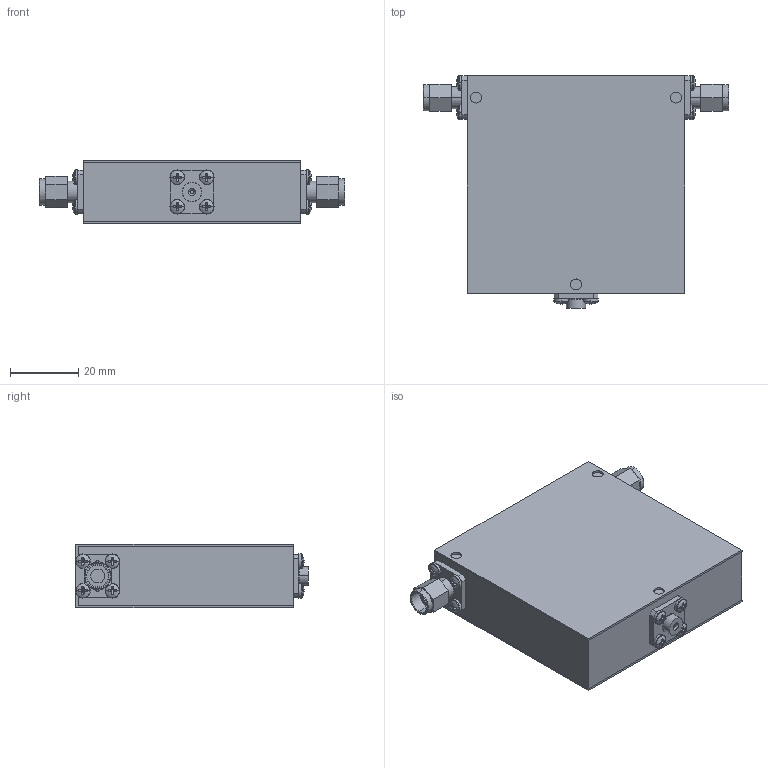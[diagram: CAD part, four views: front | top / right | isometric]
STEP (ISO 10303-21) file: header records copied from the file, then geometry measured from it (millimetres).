
FILE_DESCRIPTION (( 'STEP AP214' ), '1' );
FILE_NAME ('D3I0405-3 2.5x2.5x0.73 MM.step', '2021-12-01T20:55:41', ( '' ), ( '' ), 'SwSTEP 2.0', 'SolidWorks 2016', '' );
FILE_SCHEMA (( 'AUTOMOTIVE_DESIGN' ));
Length unit declared in the file: inch
Products named in the file (6): D3I0405 2.5x2.475x0.68; D3I0405 2.5x2.5x0.73; pan cross head_ai_CR-PHMS 0.086-56x0.125x0.125-N; D3I0405-3 2.5x2.5x0.73 MM; 030013-1A Same Base thickness as connectors; Delta SMA-Male
Assembly tree (17 placements, depth 2):
  D3I0405-3 2.5x2.5x0.73 MM
    D3I0405 2.5x2.475x0.68
    D3I0405 2.5x2.5x0.73
    030013-1A Same Base thickness as connectors
    pan cross head_ai_CR-PHMS 0.086-56x0.125x0.125-N  x12
    Delta SMA-Male  x2
Bounding box: 89.26 x 68.03 x 18.54 mm (x, y, z)
Volume: 76380.6 mm3; surface area: 33963.4 mm2
Topology: 17 solids, 17 shells, 430 faces, 980 edges, 604 vertices
Faces by surface type: plane 246, cylinder 118, torus 38, sphere 24, cone 4
Entity records: 4284 total; most frequent: DIRECTION 774, CARTESIAN_POINT 668, ORIENTED_EDGE 632, EDGE_CURVE 316, AXIS2_PLACEMENT_3D 308, VERTEX_POINT 202, EDGE_LOOP 168, CIRCLE 158
